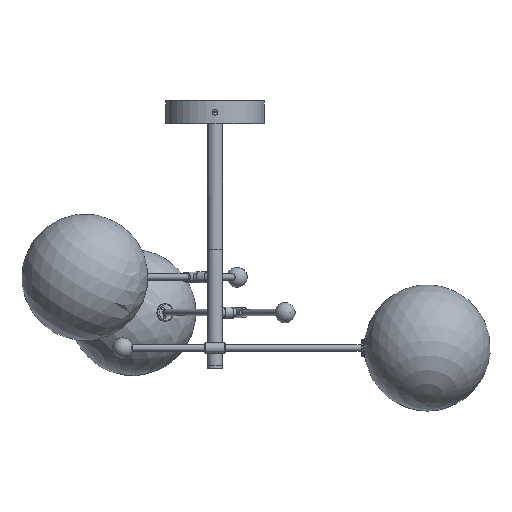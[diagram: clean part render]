
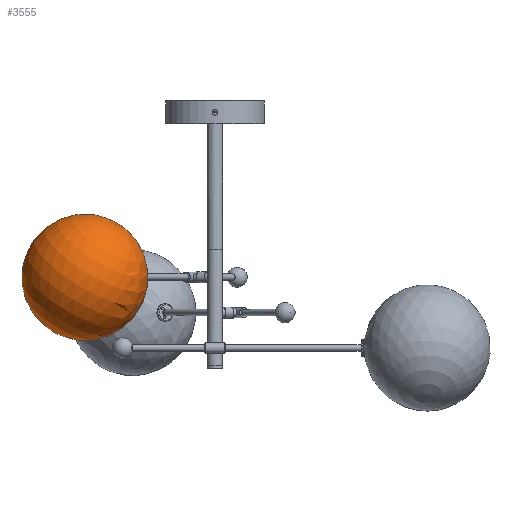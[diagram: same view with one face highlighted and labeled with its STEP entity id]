
A CAD part, front view. The second image highlights one B-rep face of the part: STEP entity #3555.
In plain terms, the highlighted spherical face has radius 125 mm.
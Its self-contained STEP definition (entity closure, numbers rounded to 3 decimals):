
#80=SPHERICAL_SURFACE('',#4027,125.);
#197=FACE_BOUND('',#810,.T.);
#518=FACE_OUTER_BOUND('',#809,.T.);
#809=EDGE_LOOP('',(#3091,#3092));
#810=EDGE_LOOP('',(#3093));
#1427=CIRCLE('',#4028,125.);
#1428=CIRCLE('',#4029,16.5);
#1754=VERTEX_POINT('',#6822);
#1755=VERTEX_POINT('',#6823);
#1756=VERTEX_POINT('',#6825);
#2218=EDGE_CURVE('',#1754,#1755,#1427,.T.);
#2219=EDGE_CURVE('',#1756,#1756,#1428,.T.);
#3091=ORIENTED_EDGE('',*,*,#2218,.T.);
#3092=ORIENTED_EDGE('',*,*,#2218,.F.);
#3093=ORIENTED_EDGE('',*,*,#2219,.T.);
#3555=ADVANCED_FACE('',(#518,#197),#80,.T.);
#4027=AXIS2_PLACEMENT_3D('',#6821,#5062,#5063);
#4028=AXIS2_PLACEMENT_3D('',#6824,#5064,#5065);
#4029=AXIS2_PLACEMENT_3D('',#6826,#5066,#5067);
#5062=DIRECTION('center_axis',(-0.491,0.283,-0.824));
#5063=DIRECTION('ref_axis',(-0.714,0.412,0.567));
#5064=DIRECTION('center_axis',(-0.5,-0.866,0.));
#5065=DIRECTION('ref_axis',(0.714,-0.412,-0.567));
#5066=DIRECTION('center_axis',(-0.5,-0.866,0.));
#5067=DIRECTION('ref_axis',(-0.574,0.331,0.749));
#6821=CARTESIAN_POINT('Origin',(-257.45,-336.517,265.));
#6822=CARTESIAN_POINT('',(-318.802,-301.095,162.013));
#6823=CARTESIAN_POINT('',(-196.098,-371.938,367.987));
#6824=CARTESIAN_POINT('Origin',(-257.45,-336.517,265.));
#6825=CARTESIAN_POINT('',(-186.027,-234.678,252.644));
#6826=CARTESIAN_POINT('Origin',(-195.497,-229.211,265.));
